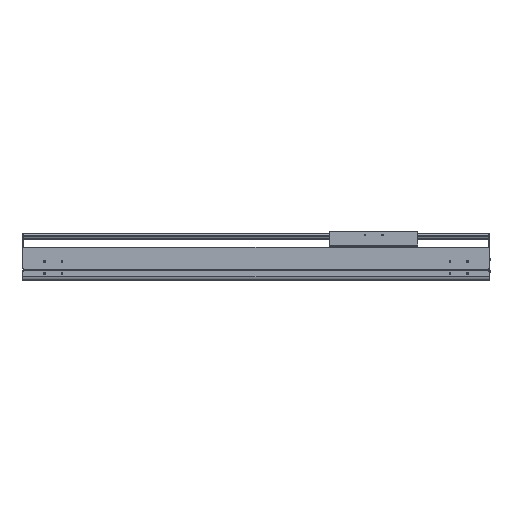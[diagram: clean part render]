
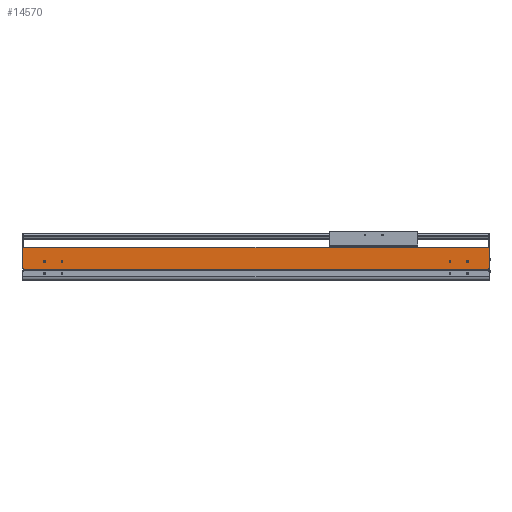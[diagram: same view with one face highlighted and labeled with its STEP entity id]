
A CAD part, top view. The second image highlights one B-rep face of the part: STEP entity #14570.
In plain terms, the highlighted planar face has unit normal (0, 0, 1).
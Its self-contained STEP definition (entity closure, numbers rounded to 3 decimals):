
#1832=DIRECTION('',(0.,-1.,0.));
#1833=VECTOR('',#1832,2.55);
#1834=CARTESIAN_POINT('',(0.,34.65,107.));
#1835=LINE('',#1834,#1833);
#2315=DIRECTION('',(1.,0.,0.));
#2316=VECTOR('',#2315,2.);
#2317=CARTESIAN_POINT('',(-1321.,34.65,107.));
#2318=LINE('',#2317,#2316);
#2319=CARTESIAN_POINT('',(-59.5,54.,107.));
#2320=DIRECTION('',(0.,0.,-1.));
#2321=DIRECTION('',(1.,0.,0.));
#2322=AXIS2_PLACEMENT_3D('',#2319,#2320,#2321);
#2324=CARTESIAN_POINT('',(-59.5,54.,107.));
#2325=DIRECTION('',(0.,0.,-1.));
#2326=DIRECTION('',(-1.,0.,0.));
#2327=AXIS2_PLACEMENT_3D('',#2324,#2325,#2326);
#2329=CARTESIAN_POINT('',(-109.5,54.,107.));
#2330=DIRECTION('',(0.,0.,-1.));
#2331=DIRECTION('',(1.,0.,0.));
#2332=AXIS2_PLACEMENT_3D('',#2329,#2330,#2331);
#2334=CARTESIAN_POINT('',(-109.5,54.,107.));
#2335=DIRECTION('',(0.,0.,-1.));
#2336=DIRECTION('',(-1.,0.,0.));
#2337=AXIS2_PLACEMENT_3D('',#2334,#2335,#2336);
#2339=CARTESIAN_POINT('',(-1259.5,54.,107.));
#2340=DIRECTION('',(0.,0.,-1.));
#2341=DIRECTION('',(1.,0.,0.));
#2342=AXIS2_PLACEMENT_3D('',#2339,#2340,#2341);
#2344=CARTESIAN_POINT('',(-1259.5,54.,107.));
#2345=DIRECTION('',(0.,0.,-1.));
#2346=DIRECTION('',(-1.,0.,0.));
#2347=AXIS2_PLACEMENT_3D('',#2344,#2345,#2346);
#2349=CARTESIAN_POINT('',(-1209.5,54.,107.));
#2350=DIRECTION('',(0.,0.,-1.));
#2351=DIRECTION('',(1.,0.,0.));
#2352=AXIS2_PLACEMENT_3D('',#2349,#2350,#2351);
#2354=CARTESIAN_POINT('',(-1209.5,54.,107.));
#2355=DIRECTION('',(0.,0.,-1.));
#2356=DIRECTION('',(-1.,0.,0.));
#2357=AXIS2_PLACEMENT_3D('',#2354,#2355,#2356);
#2359=DIRECTION('',(0.,-1.,0.));
#2360=VECTOR('',#2359,2.55);
#2361=CARTESIAN_POINT('',(-1319.,34.65,107.));
#2362=LINE('',#2361,#2360);
#2363=DIRECTION('',(0.,-1.,0.));
#2364=VECTOR('',#2363,58.85);
#2365=CARTESIAN_POINT('',(-1321.,93.5,107.));
#2366=LINE('',#2365,#2364);
#2367=DIRECTION('',(0.,1.,0.));
#2368=VECTOR('',#2367,58.85);
#2369=CARTESIAN_POINT('',(2.,34.65,107.));
#2370=LINE('',#2369,#2368);
#2371=DIRECTION('',(1.,0.,0.));
#2372=VECTOR('',#2371,1319.);
#2373=CARTESIAN_POINT('',(-1319.,32.1,107.));
#2374=LINE('',#2373,#2372);
#2479=DIRECTION('',(-1.,0.,0.));
#2480=VECTOR('',#2479,1323.);
#2481=CARTESIAN_POINT('',(2.,93.5,107.));
#2482=LINE('',#2481,#2480);
#7863=DIRECTION('',(1.,0.,0.));
#7864=VECTOR('',#7863,2.);
#7865=CARTESIAN_POINT('',(0.,34.65,107.));
#7866=LINE('',#7865,#7864);
#9201=CARTESIAN_POINT('',(-1321.,34.65,107.));
#9202=VERTEX_POINT('',#9201);
#9203=CARTESIAN_POINT('',(-1321.,93.5,107.));
#9204=VERTEX_POINT('',#9203);
#9433=CARTESIAN_POINT('',(-1319.,32.1,107.));
#9434=VERTEX_POINT('',#9433);
#9725=CARTESIAN_POINT('',(0.,32.1,107.));
#9726=VERTEX_POINT('',#9725);
#9727=CARTESIAN_POINT('',(-57.,54.,107.));
#9728=CARTESIAN_POINT('',(-62.,54.,107.));
#9729=VERTEX_POINT('',#9727);
#9730=VERTEX_POINT('',#9728);
#9731=CARTESIAN_POINT('',(-107.,54.,107.));
#9732=CARTESIAN_POINT('',(-112.,54.,107.));
#9733=VERTEX_POINT('',#9731);
#9734=VERTEX_POINT('',#9732);
#9735=CARTESIAN_POINT('',(-1257.,54.,107.));
#9736=CARTESIAN_POINT('',(-1262.,54.,107.));
#9737=VERTEX_POINT('',#9735);
#9738=VERTEX_POINT('',#9736);
#9739=CARTESIAN_POINT('',(-1207.,54.,107.));
#9740=CARTESIAN_POINT('',(-1212.,54.,107.));
#9741=VERTEX_POINT('',#9739);
#9742=VERTEX_POINT('',#9740);
#10394=CARTESIAN_POINT('',(2.,34.65,107.));
#10395=VERTEX_POINT('',#10394);
#10396=CARTESIAN_POINT('',(2.,93.5,107.));
#10397=VERTEX_POINT('',#10396);
#10848=CARTESIAN_POINT('',(0.,34.65,107.));
#10849=VERTEX_POINT('',#10848);
#10928=CARTESIAN_POINT('',(-1319.,34.65,107.));
#10929=VERTEX_POINT('',#10928);
#14528=CARTESIAN_POINT('',(-659.5,62.8,107.));
#14529=DIRECTION('',(0.,0.,1.));
#14530=DIRECTION('',(0.,-1.,0.));
#14531=AXIS2_PLACEMENT_3D('',#14528,#14529,#14530);
#14532=PLANE('',#14531);
#14533=ORIENTED_EDGE('',*,*,#12014,.F.);
#14534=ORIENTED_EDGE('',*,*,#14523,.F.);
#14535=ORIENTED_EDGE('',*,*,#12643,.F.);
#14537=ORIENTED_EDGE('',*,*,#14536,.F.);
#14538=ORIENTED_EDGE('',*,*,#11751,.F.);
#14540=ORIENTED_EDGE('',*,*,#14539,.F.);
#14541=ORIENTED_EDGE('',*,*,#14131,.T.);
#14543=ORIENTED_EDGE('',*,*,#14542,.F.);
#14544=EDGE_LOOP('',(#14533,#14534,#14535,#14537,#14538,#14540,#14541,#14543));
#14545=FACE_OUTER_BOUND('',#14544,.F.);
#14547=ORIENTED_EDGE('',*,*,#14546,.F.);
#14549=ORIENTED_EDGE('',*,*,#14548,.F.);
#14550=EDGE_LOOP('',(#14547,#14549));
#14551=FACE_BOUND('',#14550,.F.);
#14553=ORIENTED_EDGE('',*,*,#14552,.F.);
#14555=ORIENTED_EDGE('',*,*,#14554,.F.);
#14556=EDGE_LOOP('',(#14553,#14555));
#14557=FACE_BOUND('',#14556,.F.);
#14559=ORIENTED_EDGE('',*,*,#14558,.F.);
#14561=ORIENTED_EDGE('',*,*,#14560,.F.);
#14562=EDGE_LOOP('',(#14559,#14561));
#14563=FACE_BOUND('',#14562,.F.);
#14565=ORIENTED_EDGE('',*,*,#14564,.F.);
#14567=ORIENTED_EDGE('',*,*,#14566,.F.);
#14568=EDGE_LOOP('',(#14565,#14567));
#14569=FACE_BOUND('',#14568,.F.);
#14570=ADVANCED_FACE('',(#14545,#14551,#14557,#14563,#14569),#14532,.T.);
#2323=CIRCLE('',#2322,2.5);
#2328=CIRCLE('',#2327,2.5);
#2333=CIRCLE('',#2332,2.5);
#2338=CIRCLE('',#2337,2.5);
#2343=CIRCLE('',#2342,2.5);
#2348=CIRCLE('',#2347,2.5);
#2353=CIRCLE('',#2352,2.5);
#2358=CIRCLE('',#2357,2.5);
#11751=EDGE_CURVE('',#10395,#10397,#2370,.T.);
#12014=EDGE_CURVE('',#10929,#9434,#2362,.T.);
#12643=EDGE_CURVE('',#9204,#9202,#2366,.T.);
#14131=EDGE_CURVE('',#10849,#9726,#1835,.T.);
#14523=EDGE_CURVE('',#9202,#10929,#2318,.T.);
#14536=EDGE_CURVE('',#10397,#9204,#2482,.T.);
#14539=EDGE_CURVE('',#10849,#10395,#7866,.T.);
#14542=EDGE_CURVE('',#9434,#9726,#2374,.T.);
#14546=EDGE_CURVE('',#9733,#9734,#2333,.T.);
#14548=EDGE_CURVE('',#9734,#9733,#2338,.T.);
#14552=EDGE_CURVE('',#9737,#9738,#2343,.T.);
#14554=EDGE_CURVE('',#9738,#9737,#2348,.T.);
#14558=EDGE_CURVE('',#9741,#9742,#2353,.T.);
#14560=EDGE_CURVE('',#9742,#9741,#2358,.T.);
#14564=EDGE_CURVE('',#9729,#9730,#2323,.T.);
#14566=EDGE_CURVE('',#9730,#9729,#2328,.T.);
